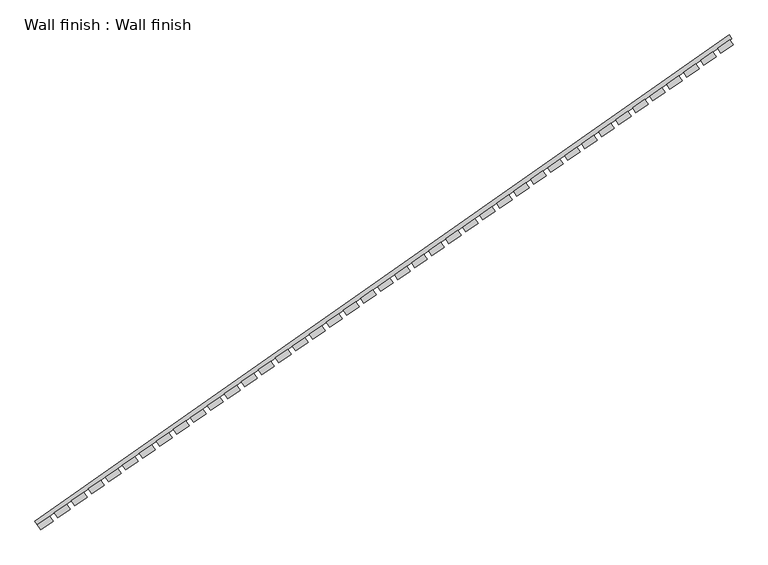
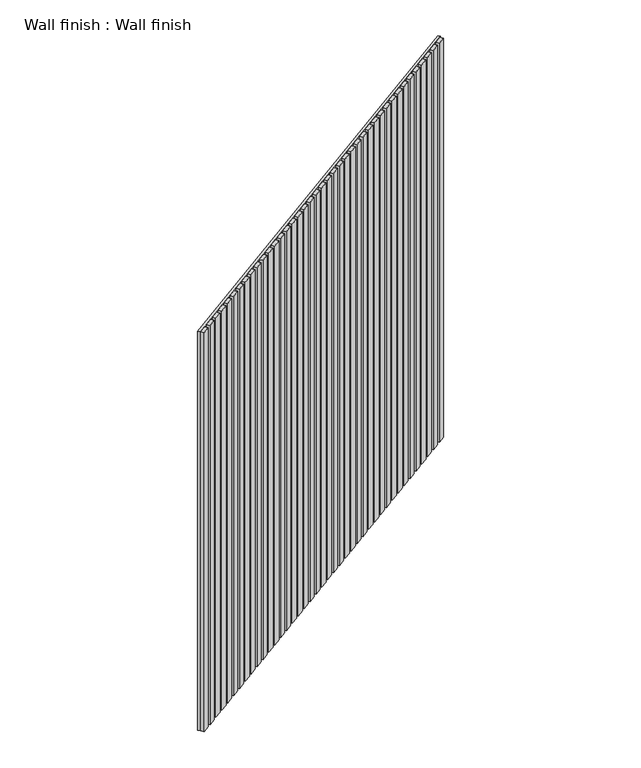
"""IFC4 building model written with IfcOpenShell, lengths in millimetres: furniture geometry, Wall finish : Wall finish."""

from ifc_helpers import new_model, si_unit, frame, origin, place, context, project, spatial, polyline, outline, extrude, source, transform, mapped, element, save


def wall_finish_wall_finish_0220e786(model_context):
    return source(origin(), model_context, "Body", "SweptSolid", [
        extrude(outline(polyline([(-1126.087987, 18243.8425514), (-1167.0455892, 18215.1637295), (-1178.5171179, 18231.5467704), (-1137.5595157, 18260.2255923), (-1126.087987, 18243.8425514)])), frame((0.0, 0.0, 150.0), z_axis=(0.0, 0.0, 1.0), x_axis=(1.0, 0.0, 0.0)), (0.0, 0.0, 1.0), 2450.0),
        extrude(outline(polyline([(-1068.7473439, 18283.9929019), (-1109.7049461, 18255.3140801), (-1121.1764748, 18271.697121), (-1080.2188726, 18300.3759428), (-1068.7473439, 18283.9929019)])), frame((0.0, 0.0, 150.0), z_axis=(0.0, 0.0, 1.0), x_axis=(1.0, 0.0, 0.0)), (0.0, 0.0, 1.0), 2450.0),
        extrude(outline(polyline([(-1011.4067008, 18324.1432525), (-1052.364303, 18295.4644306), (-1063.8358317, 18311.8474715), (-1022.8782295, 18340.5262933), (-1011.4067008, 18324.1432525)])), frame((0.0, 0.0, 150.0), z_axis=(0.0, 0.0, 1.0), x_axis=(1.0, 0.0, 0.0)), (0.0, 0.0, 1.0), 2450.0),
        extrude(outline(polyline([(-954.0660577, 18364.293603), (-995.0236599, 18335.6147812), (-1006.4951886, 18351.9978221), (-965.5375864, 18380.6766439), (-954.0660577, 18364.293603)])), frame((0.0, 0.0, 150.0), z_axis=(0.0, 0.0, 1.0), x_axis=(1.0, 0.0, 0.0)), (0.0, 0.0, 1.0), 2450.0),
        extrude(outline(polyline([(-896.7254146, 18404.4439535), (-937.6830168, 18375.7651317), (-949.1545455, 18392.1481726), (-908.1969433, 18420.8269944), (-896.7254146, 18404.4439535)])), frame((0.0, 0.0, 150.0), z_axis=(0.0, 0.0, 1.0), x_axis=(1.0, 0.0, 0.0)), (0.0, 0.0, 1.0), 2450.0),
        extrude(outline(polyline([(-839.3847715, 18444.5943041), (-880.3423737, 18415.9154823), (-891.8139024, 18432.2985232), (-850.8563002, 18460.977345), (-839.3847715, 18444.5943041)])), frame((0.0, 0.0, 150.0), z_axis=(0.0, 0.0, 1.0), x_axis=(1.0, 0.0, 0.0)), (0.0, 0.0, 1.0), 2450.0),
        extrude(outline(polyline([(-782.0441284, 18484.7446546), (-823.0017306, 18456.0658328), (-834.4732593, 18472.4488737), (-793.5156571, 18501.1276955), (-782.0441284, 18484.7446546)])), frame((0.0, 0.0, 150.0), z_axis=(0.0, 0.0, 1.0), x_axis=(1.0, 0.0, 0.0)), (0.0, 0.0, 1.0), 2450.0),
        extrude(outline(polyline([(-724.7034853, 18524.8950052), (-765.6610875, 18496.2161834), (-777.1326162, 18512.5992242), (-736.175014, 18541.2780461), (-724.7034853, 18524.8950052)])), frame((0.0, 0.0, 150.0), z_axis=(0.0, 0.0, 1.0), x_axis=(1.0, 0.0, 0.0)), (0.0, 0.0, 1.0), 2450.0),
        extrude(outline(polyline([(-667.3628422, 18565.0453557), (-708.3204444, 18536.3665339), (-719.7919731, 18552.7495748), (-678.8343709, 18581.4283966), (-667.3628422, 18565.0453557)])), frame((0.0, 0.0, 150.0), z_axis=(0.0, 0.0, 1.0), x_axis=(1.0, 0.0, 0.0)), (0.0, 0.0, 1.0), 2450.0),
        extrude(outline(polyline([(-610.0221991, 18605.1957063), (-650.9798013, 18576.5168844), (-662.45133, 18592.8999253), (-621.4937278, 18621.5787472), (-610.0221991, 18605.1957063)])), frame((0.0, 0.0, 150.0), z_axis=(0.0, 0.0, 1.0), x_axis=(1.0, 0.0, 0.0)), (0.0, 0.0, 1.0), 2450.0),
        extrude(outline(polyline([(-552.681556, 18645.3460568), (-593.6391582, 18616.667235), (-605.1106869, 18633.0502759), (-564.1530847, 18661.7290977), (-552.681556, 18645.3460568)])), frame((0.0, 0.0, 150.0), z_axis=(0.0, 0.0, 1.0), x_axis=(1.0, 0.0, 0.0)), (0.0, 0.0, 1.0), 2450.0),
        extrude(outline(polyline([(-495.3409129, 18685.4964074), (-536.2985151, 18656.8175855), (-547.7700438, 18673.2006264), (-506.8124416, 18701.8794482), (-495.3409129, 18685.4964074)])), frame((0.0, 0.0, 150.0), z_axis=(0.0, 0.0, 1.0), x_axis=(1.0, 0.0, 0.0)), (0.0, 0.0, 1.0), 2450.0),
        extrude(outline(polyline([(-438.0002698, 18725.6467579), (-478.957872, 18696.9679361), (-490.4294007, 18713.350977), (-449.4717985, 18742.0297988), (-438.0002698, 18725.6467579)])), frame((0.0, 0.0, 150.0), z_axis=(0.0, 0.0, 1.0), x_axis=(1.0, 0.0, 0.0)), (0.0, 0.0, 1.0), 2450.0),
        extrude(outline(polyline([(-380.6596267, 18765.7971084), (-421.6172289, 18737.1182866), (-433.0887576, 18753.5013275), (-392.1311554, 18782.1801493), (-380.6596267, 18765.7971084)])), frame((0.0, 0.0, 150.0), z_axis=(0.0, 0.0, 1.0), x_axis=(1.0, 0.0, 0.0)), (0.0, 0.0, 1.0), 2450.0),
        extrude(outline(polyline([(-323.3189836, 18805.947459), (-364.2765858, 18777.2686372), (-375.7481145, 18793.6516781), (-334.7905123, 18822.3304999), (-323.3189836, 18805.947459)])), frame((0.0, 0.0, 150.0), z_axis=(0.0, 0.0, 1.0), x_axis=(1.0, 0.0, 0.0)), (0.0, 0.0, 1.0), 2450.0),
        extrude(outline(polyline([(-265.9783405, 18846.0978095), (-306.9359427, 18817.4189877), (-318.4074714, 18833.8020286), (-277.4498692, 18862.4808504), (-265.9783405, 18846.0978095)])), frame((0.0, 0.0, 150.0), z_axis=(0.0, 0.0, 1.0), x_axis=(1.0, 0.0, 0.0)), (0.0, 0.0, 1.0), 2450.0),
        extrude(outline(polyline([(-208.6376974, 18886.2481601), (-249.5952996, 18857.5693383), (-261.0668283, 18873.9523791), (-220.1092261, 18902.631201), (-208.6376974, 18886.2481601)])), frame((0.0, 0.0, 150.0), z_axis=(0.0, 0.0, 1.0), x_axis=(1.0, 0.0, 0.0)), (0.0, 0.0, 1.0), 2450.0),
        extrude(outline(polyline([(-151.2970543, 18926.3985106), (-192.2546565, 18897.7196888), (-203.7261852, 18914.1027297), (-162.768583, 18942.7815515), (-151.2970543, 18926.3985106)])), frame((0.0, 0.0, 150.0), z_axis=(0.0, 0.0, 1.0), x_axis=(1.0, 0.0, 0.0)), (0.0, 0.0, 1.0), 2450.0),
        extrude(outline(polyline([(-93.9564112, 18966.5488612), (-134.9140134, 18937.8700394), (-146.3855421, 18954.2530802), (-105.4279399, 18982.9319021), (-93.9564112, 18966.5488612)])), frame((0.0, 0.0, 150.0), z_axis=(0.0, 0.0, 1.0), x_axis=(1.0, 0.0, 0.0)), (0.0, 0.0, 1.0), 2450.0),
        extrude(outline(polyline([(-36.6157681, 19006.6992117), (-77.5733703, 18978.0203899), (-89.044899, 18994.4034308), (-48.0872968, 19023.0822526), (-36.6157681, 19006.6992117)])), frame((0.0, 0.0, 150.0), z_axis=(0.0, 0.0, 1.0), x_axis=(1.0, 0.0, 0.0)), (0.0, 0.0, 1.0), 2450.0),
        extrude(outline(polyline([(20.724875, 19046.8495623), (-20.2327272, 19018.1707404), (-31.7042559, 19034.5537813), (9.2533463, 19063.2326031), (20.724875, 19046.8495623)])), frame((0.0, 0.0, 150.0), z_axis=(0.0, 0.0, 1.0), x_axis=(1.0, 0.0, 0.0)), (0.0, 0.0, 1.0), 2450.0),
        extrude(outline(polyline([(78.0655181, 19086.9999128), (37.1079159, 19058.321091), (25.6363872, 19074.7041319), (66.5939894, 19103.3829537), (78.0655181, 19086.9999128)])), frame((0.0, 0.0, 150.0), z_axis=(0.0, 0.0, 1.0), x_axis=(1.0, 0.0, 0.0)), (0.0, 0.0, 1.0), 2450.0),
        extrude(outline(polyline([(135.4061612, 19127.1502633), (94.448559, 19098.4714415), (82.9770303, 19114.8544824), (123.9346325, 19143.5333042), (135.4061612, 19127.1502633)])), frame((0.0, 0.0, 150.0), z_axis=(0.0, 0.0, 1.0), x_axis=(1.0, 0.0, 0.0)), (0.0, 0.0, 1.0), 2450.0),
        extrude(outline(polyline([(192.7468043, 19167.3006139), (151.7892021, 19138.6217921), (140.3176734, 19155.004833), (181.2752756, 19183.6836548), (192.7468043, 19167.3006139)])), frame((0.0, 0.0, 150.0), z_axis=(0.0, 0.0, 1.0), x_axis=(1.0, 0.0, 0.0)), (0.0, 0.0, 1.0), 2450.0),
        extrude(outline(polyline([(250.0874474, 19207.4509644), (209.1298452, 19178.7721426), (197.6583165, 19195.1551835), (238.6159187, 19223.8340053), (250.0874474, 19207.4509644)])), frame((0.0, 0.0, 150.0), z_axis=(0.0, 0.0, 1.0), x_axis=(1.0, 0.0, 0.0)), (0.0, 0.0, 1.0), 2450.0),
        extrude(outline(polyline([(307.4280905, 19247.601315), (266.4704883, 19218.9224932), (254.9989596, 19235.305534), (295.9565618, 19263.9843559), (307.4280905, 19247.601315)])), frame((0.0, 0.0, 150.0), z_axis=(0.0, 0.0, 1.0), x_axis=(1.0, 0.0, 0.0)), (0.0, 0.0, 1.0), 2450.0),
        extrude(outline(polyline([(364.7687336, 19287.7516655), (323.8111314, 19259.0728437), (312.3396027, 19275.4558846), (353.2972049, 19304.1347064), (364.7687336, 19287.7516655)])), frame((0.0, 0.0, 150.0), z_axis=(0.0, 0.0, 1.0), x_axis=(1.0, 0.0, 0.0)), (0.0, 0.0, 1.0), 2450.0),
        extrude(outline(polyline([(422.1093767, 19327.9020161), (381.1517745, 19299.2231943), (369.6802458, 19315.6062351), (410.637848, 19344.285057), (422.1093767, 19327.9020161)])), frame((0.0, 0.0, 150.0), z_axis=(0.0, 0.0, 1.0), x_axis=(1.0, 0.0, 0.0)), (0.0, 0.0, 1.0), 2450.0),
        extrude(outline(polyline([(479.4500198, 19368.0523666), (438.4924176, 19339.3735448), (427.0208889, 19355.7565857), (467.9784911, 19384.4354075), (479.4500198, 19368.0523666)])), frame((0.0, 0.0, 150.0), z_axis=(0.0, 0.0, 1.0), x_axis=(1.0, 0.0, 0.0)), (0.0, 0.0, 1.0), 2450.0),
        extrude(outline(polyline([(536.7906629, 19408.2027172), (495.8330607, 19379.5238953), (484.361532, 19395.9069362), (525.3191342, 19424.585758), (536.7906629, 19408.2027172)])), frame((0.0, 0.0, 150.0), z_axis=(0.0, 0.0, 1.0), x_axis=(1.0, 0.0, 0.0)), (0.0, 0.0, 1.0), 2450.0),
        extrude(outline(polyline([(594.131306, 19448.3530677), (553.1737038, 19419.6742459), (541.7021751, 19436.0572868), (582.6597773, 19464.7361086), (594.131306, 19448.3530677)])), frame((0.0, 0.0, 150.0), z_axis=(0.0, 0.0, 1.0), x_axis=(1.0, 0.0, 0.0)), (0.0, 0.0, 1.0), 2450.0),
        extrude(outline(polyline([(651.4719491, 19488.5034182), (610.5143469, 19459.8245964), (599.0428182, 19476.2076373), (640.0004204, 19504.8864591), (651.4719491, 19488.5034182)])), frame((0.0, 0.0, 150.0), z_axis=(0.0, 0.0, 1.0), x_axis=(1.0, 0.0, 0.0)), (0.0, 0.0, 1.0), 2450.0),
        extrude(outline(polyline([(708.8125922, 19528.6537688), (667.85499, 19499.974947), (656.3834613, 19516.3579879), (697.3410635, 19545.0368097), (708.8125922, 19528.6537688)])), frame((0.0, 0.0, 150.0), z_axis=(0.0, 0.0, 1.0), x_axis=(1.0, 0.0, 0.0)), (0.0, 0.0, 1.0), 2450.0),
        extrude(outline(polyline([(766.1532353, 19568.8041193), (725.1956331, 19540.1252975), (713.7241044, 19556.5083384), (754.6817066, 19585.1871602), (766.1532353, 19568.8041193)])), frame((0.0, 0.0, 150.0), z_axis=(0.0, 0.0, 1.0), x_axis=(1.0, 0.0, 0.0)), (0.0, 0.0, 1.0), 2450.0),
        extrude(outline(polyline([(823.4938784, 19608.9544699), (782.5362762, 19580.2756481), (771.0647475, 19596.6586889), (812.0223497, 19625.3375108), (823.4938784, 19608.9544699)])), frame((0.0, 0.0, 150.0), z_axis=(0.0, 0.0, 1.0), x_axis=(1.0, 0.0, 0.0)), (0.0, 0.0, 1.0), 2450.0),
        extrude(outline(polyline([(880.8345215, 19649.1048204), (839.8769193, 19620.4259986), (828.4053906, 19636.8090395), (869.3629928, 19665.4878613), (880.8345215, 19649.1048204)])), frame((0.0, 0.0, 150.0), z_axis=(0.0, 0.0, 1.0), x_axis=(1.0, 0.0, 0.0)), (0.0, 0.0, 1.0), 2450.0),
        extrude(outline(polyline([(938.1751646, 19689.255171), (897.2175624, 19660.5763492), (885.7460337, 19676.95939), (926.7036359, 19705.6382119), (938.1751646, 19689.255171)])), frame((0.0, 0.0, 150.0), z_axis=(0.0, 0.0, 1.0), x_axis=(1.0, 0.0, 0.0)), (0.0, 0.0, 1.0), 2450.0),
        extrude(outline(polyline([(995.5158077, 19729.4055215), (954.5582055, 19700.7266997), (943.0866768, 19717.1097406), (984.044279, 19745.7885624), (995.5158077, 19729.4055215)])), frame((0.0, 0.0, 150.0), z_axis=(0.0, 0.0, 1.0), x_axis=(1.0, 0.0, 0.0)), (0.0, 0.0, 1.0), 2450.0),
        extrude(outline(polyline([(1052.8564508, 19769.5558721), (1011.8988486, 19740.8770502), (1000.4273199, 19757.2600911), (1041.3849221, 19785.9389129), (1052.8564508, 19769.5558721)])), frame((0.0, 0.0, 150.0), z_axis=(0.0, 0.0, 1.0), x_axis=(1.0, 0.0, 0.0)), (0.0, 0.0, 1.0), 2450.0),
        extrude(outline(polyline([(1110.1970939, 19809.7062226), (1069.2394917, 19781.0274008), (1057.767963, 19797.4104417), (1098.7255652, 19826.0892635), (1110.1970939, 19809.7062226)])), frame((0.0, 0.0, 150.0), z_axis=(0.0, 0.0, 1.0), x_axis=(1.0, 0.0, 0.0)), (0.0, 0.0, 1.0), 2450.0),
        extrude(outline(polyline([(1167.537737, 19849.8565731), (1126.5801348, 19821.1777513), (1115.1086061, 19837.5607922), (1156.0662083, 19866.239614), (1167.537737, 19849.8565731)])), frame((0.0, 0.0, 150.0), z_axis=(0.0, 0.0, 1.0), x_axis=(1.0, 0.0, 0.0)), (0.0, 0.0, 1.0), 2450.0),
        extrude(outline(polyline([(1162.8579885, 19870.9952697), (-1178.5171179, 18231.5467704), (-1187.1207644, 18243.8340511), (1154.254342, 19883.2825504), (1162.8579885, 19870.9952697)])), frame((0.0, 0.0, 150.0), z_axis=(0.0, 0.0, 1.0), x_axis=(1.0, 0.0, 0.0)), (0.0, 0.0, 1.0), 2450.0),
    ])


if __name__ == "__main__":
    model = new_model("IFC4")
    model_context = context("Model", 3, world=origin())
    ifc_project = project(units=[si_unit("LENGTHUNIT", "METRE", prefix="MILLI")], contexts=[model_context])
    site = spatial("IfcSite", under=ifc_project)
    building = spatial("IfcBuilding", under=site)
    placement = place(None, origin())
    wall_finish_wall_finish_shape = wall_finish_wall_finish_0220e786(model_context)
    element("IfcFurniture", 1, ObjectType="Wall finish : Wall finish", at=placement, inside=building, context=model_context, shape_type="MappedRepresentation", body=[
        mapped(wall_finish_wall_finish_shape, transform((0.0, 0.0, 0.0), x_axis=(1.0, 0.0, 0.0), y_axis=(0.0, 1.0, 0.0), z_axis=(0.0, 0.0, 1.0))),
    ])
    save(model, "model.ifc")
